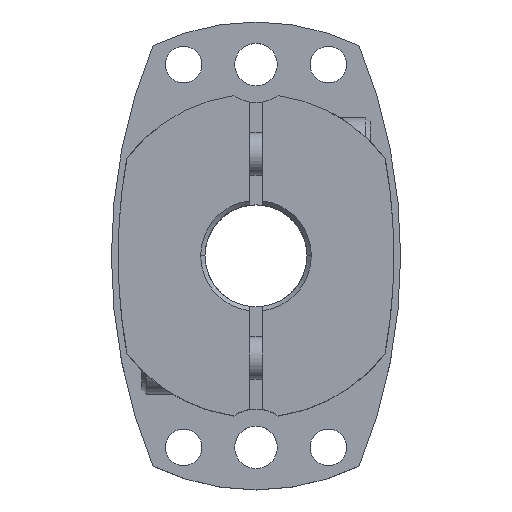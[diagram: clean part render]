
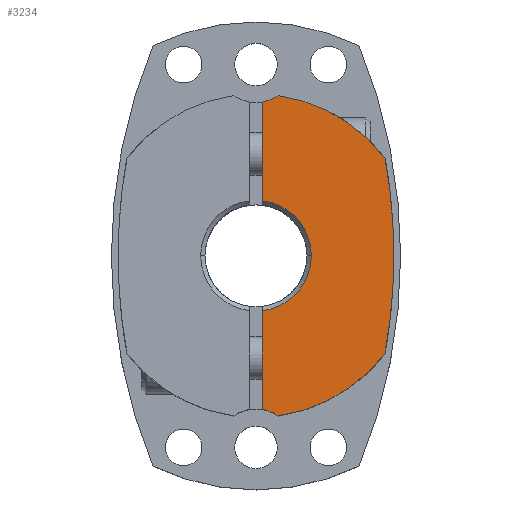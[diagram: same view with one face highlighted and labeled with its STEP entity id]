
A CAD part, top view. The second image highlights one B-rep face of the part: STEP entity #3234.
In plain terms, the highlighted planar face has unit normal (0, 0, 1).
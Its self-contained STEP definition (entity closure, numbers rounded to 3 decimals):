
#225=CARTESIAN_POINT('',(6.5,0.,17.0));
#226=VERTEX_POINT('',#225);
#235=CARTESIAN_POINT('',(0.75,6.457,17.0));
#236=VERTEX_POINT('',#235);
#237=CARTESIAN_POINT('',(0.0,0.,17.0));
#238=DIRECTION('',(0.0,0.0,1.0));
#239=DIRECTION('',(-1.0,0.0,0.0));
#240=AXIS2_PLACEMENT_3D('',#237,#238,#239);
#241=CIRCLE('',#240,6.5);
#242=EDGE_CURVE('',#226,#236,#241,.T.);
#537=CARTESIAN_POINT('',(16.2,0.,17.0));
#538=VERTEX_POINT('',#537);
#646=CARTESIAN_POINT('',(15.173,11.435,17.0));
#647=VERTEX_POINT('',#646);
#654=CARTESIAN_POINT('',(-48.,0.,17.0));
#655=DIRECTION('',(0.0,0.0,-1.0));
#656=DIRECTION('',(1.0,0.0,0.0));
#657=AXIS2_PLACEMENT_3D('',#654,#655,#656);
#658=CIRCLE('',#657,64.2);
#659=EDGE_CURVE('',#647,#538,#658,.T.);
#2305=CARTESIAN_POINT('',(2.593,18.822,17.0));
#2306=VERTEX_POINT('',#2305);
#2313=CARTESIAN_POINT('',(0.,0.,17.0));
#2314=DIRECTION('',(0.0,0.0,-1.0));
#2315=DIRECTION('',(1.0,0.0,0.0));
#2316=AXIS2_PLACEMENT_3D('',#2313,#2314,#2315);
#2317=CIRCLE('',#2316,19.);
#2318=EDGE_CURVE('',#2306,#647,#2317,.T.);
#2531=CARTESIAN_POINT('',(15.173,-11.435,17.0));
#2532=VERTEX_POINT('',#2531);
#2533=CARTESIAN_POINT('',(-48.,0.,17.0));
#2534=DIRECTION('',(0.0,0.0,-1.0));
#2535=DIRECTION('',(1.0,0.0,0.0));
#2536=AXIS2_PLACEMENT_3D('',#2533,#2534,#2535);
#2537=CIRCLE('',#2536,64.2);
#2538=EDGE_CURVE('',#538,#2532,#2537,.T.);
#2747=CARTESIAN_POINT('',(0.75,18.063,17.0));
#2748=VERTEX_POINT('',#2747);
#2755=CARTESIAN_POINT('',(0.,22.5,17.0));
#2756=DIRECTION('',(0.0,0.0,-1.0));
#2757=DIRECTION('',(1.0,0.0,0.0));
#2758=AXIS2_PLACEMENT_3D('',#2755,#2756,#2757);
#2759=CIRCLE('',#2758,4.5);
#2760=EDGE_CURVE('',#2306,#2748,#2759,.T.);
#2772=CARTESIAN_POINT('',(0.75,-18.063,17.0));
#2773=VERTEX_POINT('',#2772);
#2789=CARTESIAN_POINT('',(2.593,-18.822,17.0));
#2790=VERTEX_POINT('',#2789);
#2797=CARTESIAN_POINT('',(0.,-22.5,17.0));
#2798=DIRECTION('',(0.0,0.0,-1.0));
#2799=DIRECTION('',(1.0,0.0,0.0));
#2800=AXIS2_PLACEMENT_3D('',#2797,#2798,#2799);
#2801=CIRCLE('',#2800,4.5);
#2802=EDGE_CURVE('',#2773,#2790,#2801,.T.);
#3156=CARTESIAN_POINT('',(0.75,-6.457,17.0));
#3157=VERTEX_POINT('',#3156);
#3158=CARTESIAN_POINT('',(0.75,-6.457,17.0));
#3159=DIRECTION('',(0.0,-1.0,0.0));
#3160=VECTOR('',#3159,11.606);
#3161=LINE('',#3158,#3160);
#3162=EDGE_CURVE('',#3157,#2773,#3161,.T.);
#3200=CARTESIAN_POINT('',(0.,0.,17.0));
#3201=DIRECTION('',(0.0,0.0,1.0));
#3202=DIRECTION('',(1.0,0.0,0.0));
#3203=AXIS2_PLACEMENT_3D('',#3200,#3201,#3202);
#3204=PLANE('',#3203);
#3205=ORIENTED_EDGE('',*,*,#2760,.T.);
#3206=CARTESIAN_POINT('',(0.75,18.063,17.0));
#3207=DIRECTION('',(0.0,-1.0,0.0));
#3208=VECTOR('',#3207,11.606);
#3209=LINE('',#3206,#3208);
#3210=EDGE_CURVE('',#2748,#236,#3209,.T.);
#3211=ORIENTED_EDGE('',*,*,#3210,.T.);
#3212=ORIENTED_EDGE('',*,*,#242,.F.);
#3213=CARTESIAN_POINT('',(0.0,0.,17.0));
#3214=DIRECTION('',(0.0,0.0,1.0));
#3215=DIRECTION('',(-1.0,0.0,0.0));
#3216=AXIS2_PLACEMENT_3D('',#3213,#3214,#3215);
#3217=CIRCLE('',#3216,6.5);
#3218=EDGE_CURVE('',#3157,#226,#3217,.T.);
#3219=ORIENTED_EDGE('',*,*,#3218,.F.);
#3220=ORIENTED_EDGE('',*,*,#3162,.T.);
#3221=ORIENTED_EDGE('',*,*,#2802,.T.);
#3222=CARTESIAN_POINT('',(0.,0.0,17.0));
#3223=DIRECTION('',(0.0,0.0,-1.0));
#3224=DIRECTION('',(1.0,0.0,0.0));
#3225=AXIS2_PLACEMENT_3D('',#3222,#3223,#3224);
#3226=CIRCLE('',#3225,19.);
#3227=EDGE_CURVE('',#2532,#2790,#3226,.T.);
#3228=ORIENTED_EDGE('',*,*,#3227,.F.);
#3229=ORIENTED_EDGE('',*,*,#2538,.F.);
#3230=ORIENTED_EDGE('',*,*,#659,.F.);
#3231=ORIENTED_EDGE('',*,*,#2318,.F.);
#3232=EDGE_LOOP('',(#3205,#3211,#3212,#3219,#3220,#3221,#3228,#3229,#3230,#3231));
#3233=FACE_OUTER_BOUND('',#3232,.T.);
#3234=ADVANCED_FACE('',(#3233),#3204,.T.);
